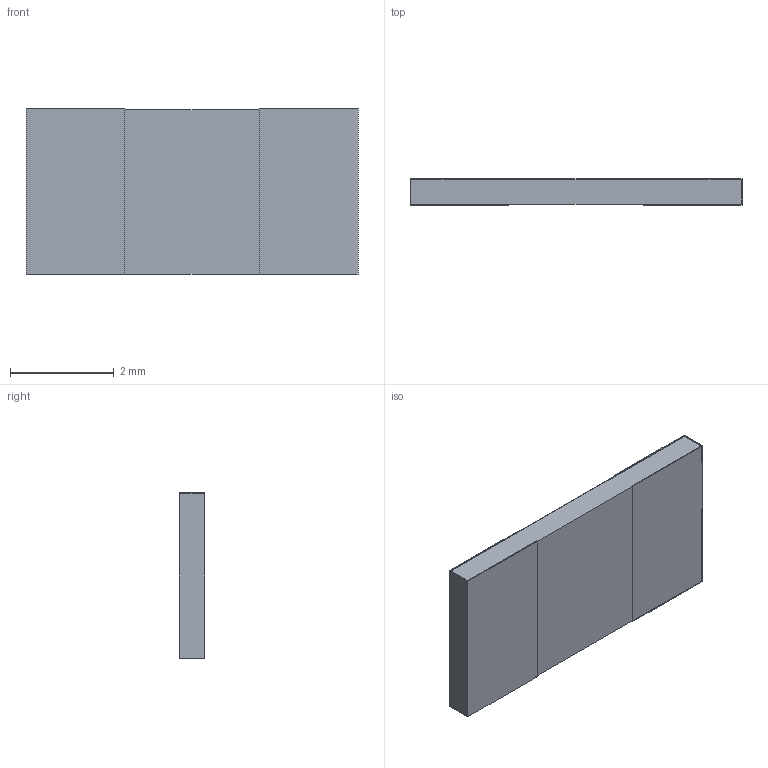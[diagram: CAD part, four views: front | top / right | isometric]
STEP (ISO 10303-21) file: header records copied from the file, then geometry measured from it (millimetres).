
FILE_DESCRIPTION(/* description */ (''),/* implementation_level */ '2;1');
FILE_NAME(/* name */ 'C:\Users\mulla\Documents\SEI Models\Inventor Files\CSR\CSR2512_stp.stp',/* time_stamp */ '2019-06-14T17:35:07-04:00',/* author */ ('mulla'),/* organization */ (''),/* preprocessor_version */ 'ST-DEVELOPER v16.1',/* originating_system */ 'Autodesk Inventor 2016',/* authorisation */ '');
FILE_SCHEMA (('AUTOMOTIVE_DESIGN { 1 0 10303 214 3 1 1 }'));
Length unit declared in the file: millimetre
Products named in the file (1): CSR2512
Bounding box: 6.4 x 0.5 x 3.2 mm (x, y, z)
Volume: 10 mm3; surface area: 121.2 mm2
Topology: 4 solids, 4 shells, 32 faces, 72 edges, 48 vertices
Faces by surface type: plane 32
Entity records: 950 total; most frequent: CARTESIAN_POINT 153, ORIENTED_EDGE 144, DIRECTION 138, LINE 72, VECTOR 72, EDGE_CURVE 72, VERTEX_POINT 48, STYLED_ITEM 36
